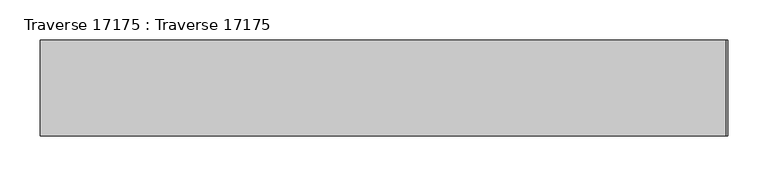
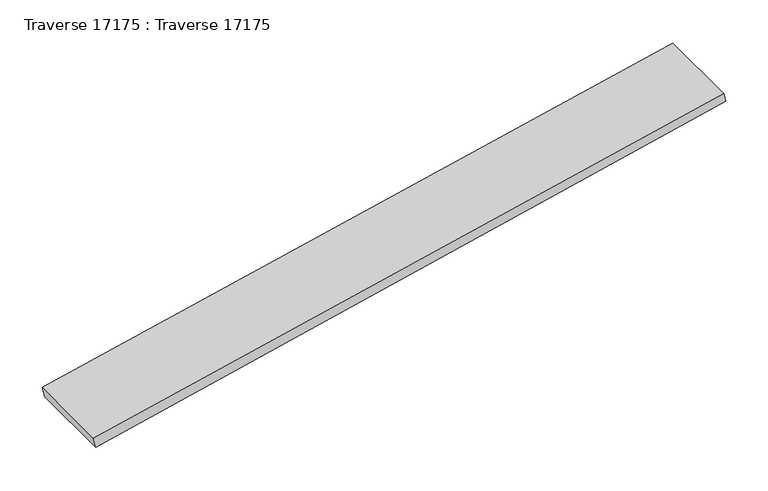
"""IFC4 building model written with IfcOpenShell, lengths in millimetres: beam geometry, Traverse 17175 : Traverse 17175."""

from ifc_helpers import new_model, si_unit, frame, origin, place, context, project, spatial, polyline, outline, extrude, source, transform, mapped, element, save


def traverse_17175_traverse_17175_7bee451d(model_context):
    return source(origin(), model_context, "Body", "SweptSolid", [
        extrude(outline(polyline([(7744.8710555, 1053.9023635), (7756.7615347, 1051.1860251), (7561.1758583, 195.0307824), (7546.5804318, 198.3650567), (7744.8710555, 1053.9023635)])), frame((0.0, -39875.0, 0.0), z_axis=(0.0, 1.0, 0.0), x_axis=(0.0, 0.0, 1.0)), (0.0, 0.0, 1.0), 120.0),
    ])


if __name__ == "__main__":
    model = new_model("IFC4")
    model_context = context("Model", 3, world=origin())
    ifc_project = project(units=[si_unit("LENGTHUNIT", "METRE", prefix="MILLI")], contexts=[model_context])
    site = spatial("IfcSite", under=ifc_project)
    building = spatial("IfcBuilding", under=site)
    placement = place(None, origin())
    traverse_17175_traverse_17175_shape = traverse_17175_traverse_17175_7bee451d(model_context)
    element("IfcBeam", 1, ObjectType="Traverse 17175 : Traverse 17175", at=placement, inside=building, context=model_context, shape_type="MappedRepresentation", body=[
        mapped(traverse_17175_traverse_17175_shape, transform((0.0, 0.0, 0.0), x_axis=(1.0, 0.0, 0.0), y_axis=(0.0, 1.0, 0.0), z_axis=(0.0, 0.0, 1.0))),
    ])
    save(model, "model.ifc")
